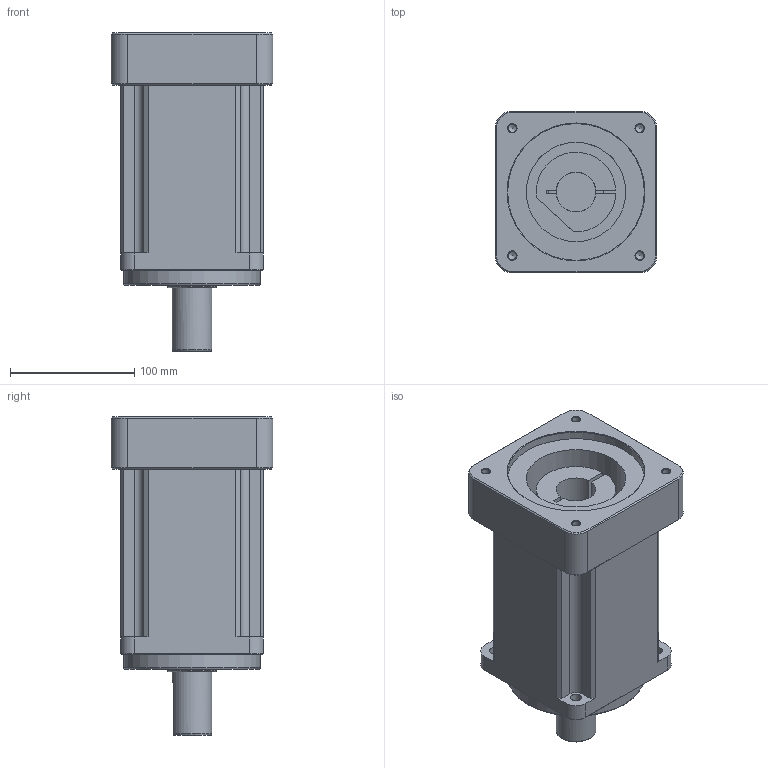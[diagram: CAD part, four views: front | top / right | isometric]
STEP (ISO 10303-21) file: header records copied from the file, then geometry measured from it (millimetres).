
FILE_DESCRIPTION((''),'2;1');
FILE_NAME('D:\유성\유성\도면\3D\2. 홈페이지용 3D 도면 (ipt)\외부도\SPI115 2단\SPI(H)115 SERIES (2 STAGE-KA TYPE)_Shrinkwrap_1.stp','2014-05-08T13:52:07',('nagyu'),(''),'Autodesk Inventor 2013','Autodesk Inventor 2013','');
FILE_SCHEMA(('AUTOMOTIVE_DESIGN { 1 0 10303 214 1 1 1 1 }'));
Length unit declared in the file: millimetre
Products named in the file (1): SPI(H)115 SERIES (2 STAGE-KA TYPE)_Shrinkwrap_1
Bounding box: 130 x 130 x 256 mm (x, y, z)
Volume: 2411888.2 mm3; surface area: 159464.1 mm2
Topology: 1 solids, 1 shells, 122 faces, 308 edges, 194 vertices
Faces by surface type: plane 55, cylinder 41, cone 23, torus 3
Full cylindrical faces by diameter (mm): 6.647 x4, 9 x4, 12 x2, 12.5 x1, 32 x2, 39.5 x1, 45 x1, 80 x1, 110 x2
Entity records: 3475 total; most frequent: CARTESIAN_POINT 635, DIRECTION 611, ORIENTED_EDGE 526, EDGE_CURVE 263, AXIS2_PLACEMENT_3D 230, VERTEX_POINT 180, EDGE_LOOP 171, VECTOR 151
